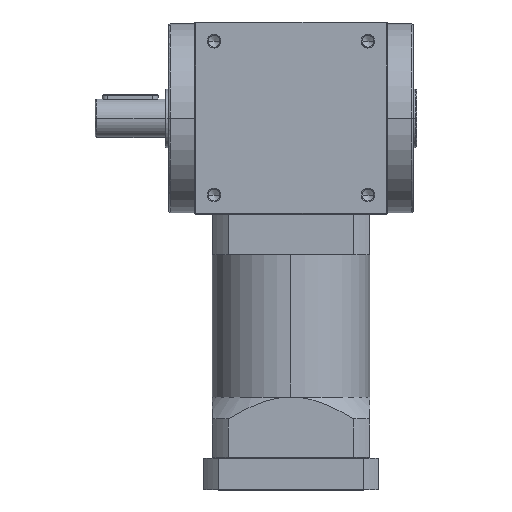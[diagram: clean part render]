
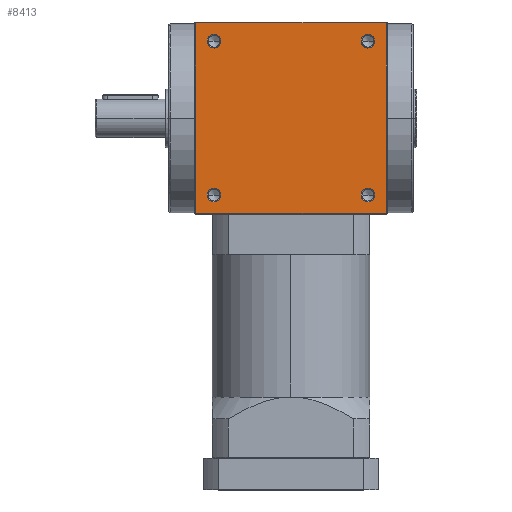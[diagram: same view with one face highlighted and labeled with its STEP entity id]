
A CAD part, top view. The second image highlights one B-rep face of the part: STEP entity #8413.
In plain terms, the highlighted planar face has unit normal (0, 0, 1).
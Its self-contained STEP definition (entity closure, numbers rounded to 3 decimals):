
#37 = VERTEX_POINT ( 'NONE', #3248 ) ;
#314 = AXIS2_PLACEMENT_3D ( 'NONE', #9100, #3597, #10007 ) ;
#399 = ORIENTED_EDGE ( 'NONE', *, *, #1920, .F. ) ;
#644 = CARTESIAN_POINT ( 'NONE',  ( 54.5, 0., 55. ) ) ;
#705 = DIRECTION ( 'NONE',  ( 1., 0., 0. ) ) ;
#834 = AXIS2_PLACEMENT_3D ( 'NONE', #2116, #8582, #3069 ) ;
#913 = EDGE_CURVE ( 'NONE', #4524, #6048, #11712, .T. ) ;
#1037 = DIRECTION ( 'NONE',  ( 0., 0., 1. ) ) ;
#1207 = ORIENTED_EDGE ( 'NONE', *, *, #8390, .F. ) ;
#1417 = EDGE_CURVE ( 'NONE', #7491, #9407, #11429, .T. ) ;
#1595 = DIRECTION ( 'NONE',  ( 0., -1., 0. ) ) ;
#1682 = CIRCLE ( 'NONE', #834, 3.9 ) ;
#1730 = VERTEX_POINT ( 'NONE', #9444 ) ;
#1741 = ORIENTED_EDGE ( 'NONE', *, *, #8099, .F. ) ;
#1920 = EDGE_CURVE ( 'NONE', #9322, #6500, #6402, .T. ) ;
#2116 = CARTESIAN_POINT ( 'NONE',  ( -44., -44., 55. ) ) ;
#2400 = ORIENTED_EDGE ( 'NONE', *, *, #8608, .F. ) ;
#2401 = CARTESIAN_POINT ( 'NONE',  ( 54.5, -54.5, 55. ) ) ;
#2461 = AXIS2_PLACEMENT_3D ( 'NONE', #10011, #4521, #10975 ) ;
#2631 = ORIENTED_EDGE ( 'NONE', *, *, #913, .F. ) ;
#2642 = FACE_OUTER_BOUND ( 'NONE', #2969, .T. ) ;
#2769 = CARTESIAN_POINT ( 'NONE',  ( 40.1, 44., 55. ) ) ;
#2860 = VERTEX_POINT ( 'NONE', #2401 ) ;
#2930 = AXIS2_PLACEMENT_3D ( 'NONE', #9057, #3560, #9957 ) ;
#2969 = EDGE_LOOP ( 'NONE', ( #7974, #5434, #7433, #1741 ) ) ;
#3069 = DIRECTION ( 'NONE',  ( 0., -1., 0. ) ) ;
#3226 = VERTEX_POINT ( 'NONE', #9598 ) ;
#3248 = CARTESIAN_POINT ( 'NONE',  ( -54.5, -54.5, 55. ) ) ;
#3291 = EDGE_LOOP ( 'NONE', ( #2400, #6333 ) ) ;
#3340 = VERTEX_POINT ( 'NONE', #9278 ) ;
#3493 = VECTOR ( 'NONE', #11141, 1000. ) ;
#3560 = DIRECTION ( 'NONE',  ( 0., 0., 1. ) ) ;
#3597 = DIRECTION ( 'NONE',  ( 0., 0., 1. ) ) ;
#3670 = VECTOR ( 'NONE', #1595, 1000. ) ;
#3991 = EDGE_CURVE ( 'NONE', #6500, #9322, #9829, .T. ) ;
#4079 = DIRECTION ( 'NONE',  ( -1., 0., 0. ) ) ;
#4098 = CARTESIAN_POINT ( 'NONE',  ( 0., 54.5, 55. ) ) ;
#4477 = PLANE ( 'NONE',  #2461 ) ;
#4489 = CARTESIAN_POINT ( 'NONE',  ( -44., 47.9, 55. ) ) ;
#4505 = CARTESIAN_POINT ( 'NONE',  ( 44., -40.1, 55. ) ) ;
#4509 = EDGE_LOOP ( 'NONE', ( #1207, #2631 ) ) ;
#4521 = DIRECTION ( 'NONE',  ( 0., 0., -1. ) ) ;
#4524 = VERTEX_POINT ( 'NONE', #4505 ) ;
#4568 = EDGE_CURVE ( 'NONE', #5195, #1730, #6587, .T. ) ;
#5010 = FACE_BOUND ( 'NONE', #11643, .T. ) ;
#5195 = VERTEX_POINT ( 'NONE', #7760 ) ;
#5383 = AXIS2_PLACEMENT_3D ( 'NONE', #11124, #1037, #11114 ) ;
#5434 = ORIENTED_EDGE ( 'NONE', *, *, #7753, .F. ) ;
#5594 = VECTOR ( 'NONE', #10436, 1000. ) ;
#5854 = LINE ( 'NONE', #10183, #3493 ) ;
#5952 = VECTOR ( 'NONE', #4079, 1000. ) ;
#5953 = CARTESIAN_POINT ( 'NONE',  ( 44., -44., 55. ) ) ;
#6048 = VERTEX_POINT ( 'NONE', #8339 ) ;
#6289 = DIRECTION ( 'NONE',  ( 0., 0., 1. ) ) ;
#6333 = ORIENTED_EDGE ( 'NONE', *, *, #12048, .F. ) ;
#6402 = CIRCLE ( 'NONE', #9752, 3.9 ) ;
#6472 = CIRCLE ( 'NONE', #2930, 3.9 ) ;
#6500 = VERTEX_POINT ( 'NONE', #4489 ) ;
#6587 = LINE ( 'NONE', #4098, #5952 ) ;
#6731 = ORIENTED_EDGE ( 'NONE', *, *, #3991, .F. ) ;
#6842 = DIRECTION ( 'NONE',  ( 0., 0., 1. ) ) ;
#6932 = AXIS2_PLACEMENT_3D ( 'NONE', #8399, #8397, #8383 ) ;
#7325 = CIRCLE ( 'NONE', #10605, 3.9 ) ;
#7331 = AXIS2_PLACEMENT_3D ( 'NONE', #5953, #6842, #10690 ) ;
#7433 = ORIENTED_EDGE ( 'NONE', *, *, #4568, .T. ) ;
#7491 = VERTEX_POINT ( 'NONE', #2769 ) ;
#7581 = DIRECTION ( 'NONE',  ( 0., -1., 0. ) ) ;
#7599 = DIRECTION ( 'NONE',  ( 0., 0., 1. ) ) ;
#7627 = CARTESIAN_POINT ( 'NONE',  ( -44., 44., 55. ) ) ;
#7657 = FACE_BOUND ( 'NONE', #4509, .T. ) ;
#7753 = EDGE_CURVE ( 'NONE', #5195, #2860, #9008, .T. ) ;
#7760 = CARTESIAN_POINT ( 'NONE',  ( 54.5, 54.5, 55. ) ) ;
#7956 = EDGE_CURVE ( 'NONE', #2860, #37, #5854, .T. ) ;
#7974 = ORIENTED_EDGE ( 'NONE', *, *, #7956, .F. ) ;
#8099 = EDGE_CURVE ( 'NONE', #37, #1730, #10362, .T. ) ;
#8339 = CARTESIAN_POINT ( 'NONE',  ( 44., -47.9, 55. ) ) ;
#8383 = DIRECTION ( 'NONE',  ( 0., -1., 0. ) ) ;
#8390 = EDGE_CURVE ( 'NONE', #6048, #4524, #6472, .T. ) ;
#8397 = DIRECTION ( 'NONE',  ( 0., 0., 1. ) ) ;
#8399 = CARTESIAN_POINT ( 'NONE',  ( -44., 44., 55. ) ) ;
#8413 = ADVANCED_FACE ( 'NONE', ( #5010, #11038, #11224, #7657, #2642 ), #4477, .F. ) ;
#8582 = DIRECTION ( 'NONE',  ( 0., 0., 1. ) ) ;
#8596 = CARTESIAN_POINT ( 'NONE',  ( -54.5, 0., 55. ) ) ;
#8608 = EDGE_CURVE ( 'NONE', #3340, #3226, #1682, .T. ) ;
#8897 = EDGE_LOOP ( 'NONE', ( #11455, #11792 ) ) ;
#9008 = LINE ( 'NONE', #644, #3670 ) ;
#9009 = EDGE_CURVE ( 'NONE', #9407, #7491, #7325, .T. ) ;
#9057 = CARTESIAN_POINT ( 'NONE',  ( 44., -44., 55. ) ) ;
#9100 = CARTESIAN_POINT ( 'NONE',  ( -44., -44., 55. ) ) ;
#9278 = CARTESIAN_POINT ( 'NONE',  ( -44., -47.9, 55. ) ) ;
#9322 = VERTEX_POINT ( 'NONE', #11389 ) ;
#9407 = VERTEX_POINT ( 'NONE', #9624 ) ;
#9444 = CARTESIAN_POINT ( 'NONE',  ( -54.5, 54.5, 55. ) ) ;
#9598 = CARTESIAN_POINT ( 'NONE',  ( -44., -40.1, 55. ) ) ;
#9624 = CARTESIAN_POINT ( 'NONE',  ( 47.9, 44., 55. ) ) ;
#9752 = AXIS2_PLACEMENT_3D ( 'NONE', #7627, #7599, #7581 ) ;
#9774 = CIRCLE ( 'NONE', #314, 3.9 ) ;
#9829 = CIRCLE ( 'NONE', #6932, 3.9 ) ;
#9957 = DIRECTION ( 'NONE',  ( 0., -1., 0. ) ) ;
#10007 = DIRECTION ( 'NONE',  ( 0., -1., 0. ) ) ;
#10011 = CARTESIAN_POINT ( 'NONE',  ( 0., 0., 55. ) ) ;
#10183 = CARTESIAN_POINT ( 'NONE',  ( 0., -54.5, 55. ) ) ;
#10362 = LINE ( 'NONE', #8596, #5594 ) ;
#10436 = DIRECTION ( 'NONE',  ( 0., 1., 0. ) ) ;
#10605 = AXIS2_PLACEMENT_3D ( 'NONE', #11838, #6289, #705 ) ;
#10690 = DIRECTION ( 'NONE',  ( 0., -1., 0. ) ) ;
#10975 = DIRECTION ( 'NONE',  ( -1., 0., 0. ) ) ;
#11038 = FACE_BOUND ( 'NONE', #8897, .T. ) ;
#11114 = DIRECTION ( 'NONE',  ( 1., 0., 0. ) ) ;
#11124 = CARTESIAN_POINT ( 'NONE',  ( 44., 44., 55. ) ) ;
#11141 = DIRECTION ( 'NONE',  ( -1., 0., 0. ) ) ;
#11224 = FACE_BOUND ( 'NONE', #3291, .T. ) ;
#11389 = CARTESIAN_POINT ( 'NONE',  ( -44., 40.1, 55. ) ) ;
#11429 = CIRCLE ( 'NONE', #5383, 3.9 ) ;
#11455 = ORIENTED_EDGE ( 'NONE', *, *, #9009, .F. ) ;
#11643 = EDGE_LOOP ( 'NONE', ( #399, #6731 ) ) ;
#11712 = CIRCLE ( 'NONE', #7331, 3.9 ) ;
#11792 = ORIENTED_EDGE ( 'NONE', *, *, #1417, .F. ) ;
#11838 = CARTESIAN_POINT ( 'NONE',  ( 44., 44., 55. ) ) ;
#12048 = EDGE_CURVE ( 'NONE', #3226, #3340, #9774, .T. ) ;
